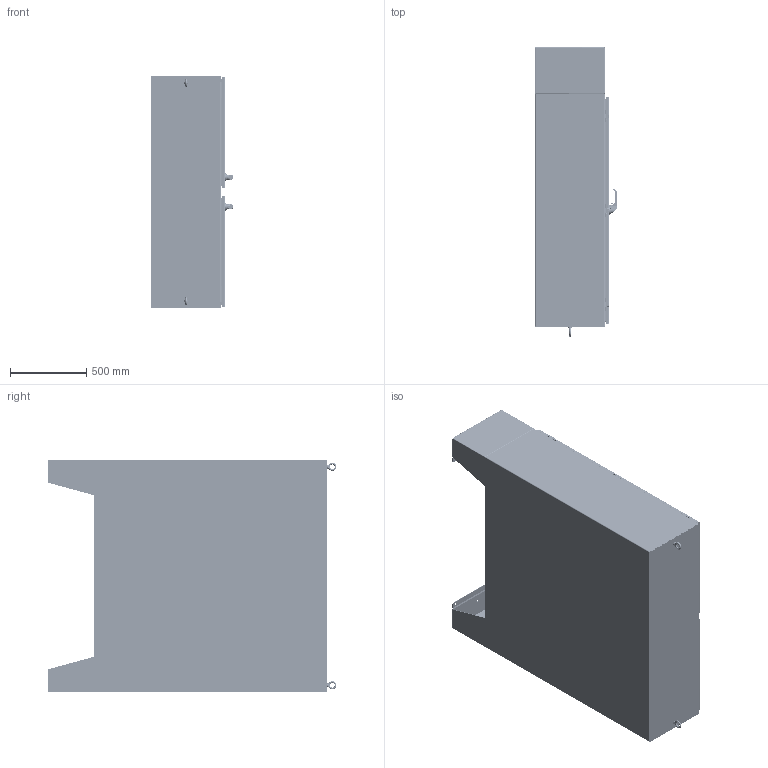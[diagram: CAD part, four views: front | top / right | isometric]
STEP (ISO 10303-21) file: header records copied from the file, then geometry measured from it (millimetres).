
FILE_DESCRIPTION((''),'2;1');
FILE_NAME('MODEL-149_ASM','2026-02-19T14:25:25',('mikek'),('SAGINAW CONTROL & ENGINEERING'),'CREO PARAMETRIC BY PTC INC, 2021284','CREO PARAMETRIC BY PTC INC, 2021284','');
FILE_SCHEMA(('AUTOMOTIVE_DESIGN { 1 0 10303 214 1 1 1 1 }'));
Length unit declared in the file: inch
Products named in the file (89): MODEL-149-BTM; MODEL-149-RS; MODEL-149-LS; MODEL-149-BCK; MODEL-149-TP; MODEL-149-RH-DR; 100837; 111267; 100882; 100955_SCREW_MTG; 100955_PADLOCK_CATCH; 100955_SCREW_LARGE; 100955_INSERT_SHAFT; 100955_INSERT_PKH; 100955_GASKET; 100955_O-RING; 100955_BASE; 100955_SPRING; 100955_HANDLE; 100955_CAM_SHAFT; 100955_HANDLE_ASM; 100955_CAM_ADAPTER; 100955_EARTH_NUT; 100955_FLANGE_NUT; 100955_CAM_NUT; 100955_KEY_INSERT; 100955_SPRING_CAM; 100955_TORSION_SPRING; 100955_SCREW_INSERT; 100955_ASM; 102236; 100030; 102236_ASM; MODEL-149-ROD-UPR-RH; 128146; 128145; 128144; 102482; MODEL-149-ROD-UPR-RH_ASM; 128143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
Assembly tree (207 placements, depth 5):
  MODEL-149_ASM
    MODEL-149-BTM
    MODEL-149-RS
    MODEL-149-LS
    MODEL-149-BCK
    MODEL-149-TP
    MODEL-149-RH-DOOR-ASSY_ASM
      MODEL-149-RH-DR
      100837  x5
      111267
      100882  x10
      100955_ASM
        100955_SCREW_MTG
        100955_PADLOCK_CATCH
        100955_SCREW_LARGE  x2
        100955_INSERT_SHAFT
        100955_INSERT_PKH
        100955_GASKET
        100955_O-RING
        100955_BASE
        100955_SPRING
        100955_HANDLE_ASM
          100955_HANDLE
          100955_CAM_SHAFT
        100955_CAM_ADAPTER
        100955_EARTH_NUT
        100955_FLANGE_NUT
        100955_CAM_NUT
        100955_KEY_INSERT
        100955_SPRING_CAM
        100955_TORSION_SPRING
        100955_SCREW_INSERT
      102236_ASM
        102236
        100030  x2
      MODEL-149-ROD-UPR-RH_ASM
        MODEL-149-ROD-UPR-RH
        128146
        128145
        128144
        102482  x2
      128143  x2
      112504  x2
      MODEL-149-ROD-LWR-RH_ASM
        MODEL-149-ROD-LWR-RH
        128146
        128145
        128144
        102482  x2
      MODEL-149-PR-GSKT-RH
      128258_ASM  x3
        128258
      126395  x3
      102483  x3
      101383_ASM  x3
        101383
        101383-STUD
      101221  x3
    MODEL-149-LH-DOOR-ASSY_ASM
      MODEL-149-LH-DR
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Bounding box: 535.45 x 1889.96 x 1524 mm (x, y, z)
Volume: 32847370.7 mm3; surface area: 23651774.9 mm2
Topology: 251 solids, 251 shells, 22756 faces, 57794 edges, 35464 vertices
Faces by surface type: plane 7887, cylinder 5849, bspline 5136, torus 1742, cone 1390, sphere 636, extrusion 116
Entity records: 433464 total; most frequent: CARTESIAN_POINT 170959, ORIENTED_EDGE 39516, DIRECTION 35980, PRESENTATION_STYLE_ASSIGNMENT 20671, STYLED_ITEM 20666, EDGE_CURVE 19758, CURVE_STYLE 19710, AXIS2_PLACEMENT_3D 13220
